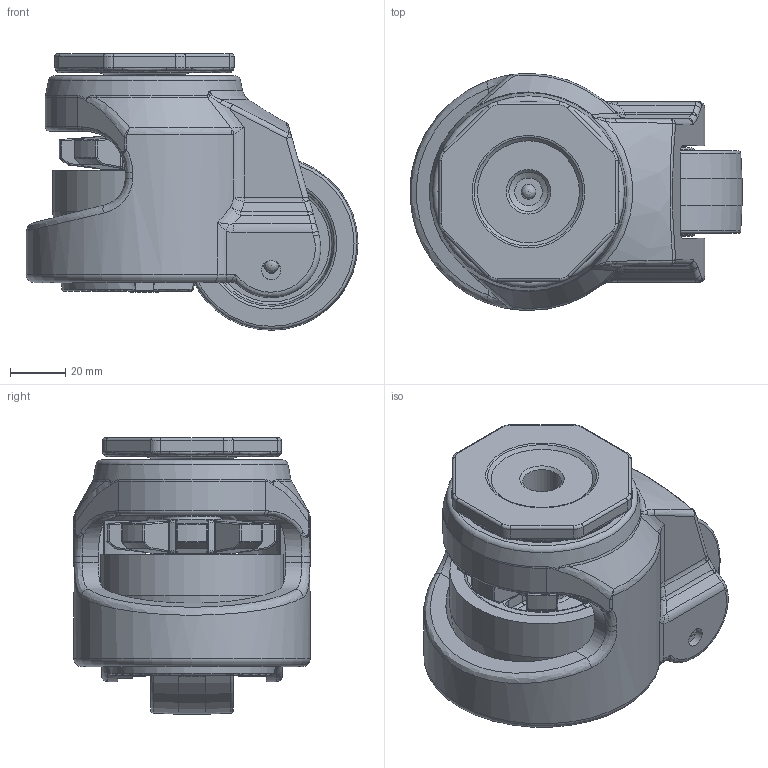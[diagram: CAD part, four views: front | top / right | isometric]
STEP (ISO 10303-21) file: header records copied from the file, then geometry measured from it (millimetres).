
FILE_DESCRIPTION((''),'2;1');
FILE_NAME('C:\Documents and Settings\Administrator\바탕 화면\12월\미스미 복사완품자료\지덕산업_3D\GD-SERIES\GDN-80S\GDN-80S.stp','2010-12-27T17:04:56',('Administrator'),(''),'Autodesk Inventor 2009','Autodesk Inventor 2009','');
FILE_SCHEMA(('AUTOMOTIVE_DESIGN { 1 0 10303 214 1 1 1 1 }'));
Length unit declared in the file: millimetre
Products named in the file (1): GDN-80S
Bounding box: 120.5 x 85.99 x 100.4 mm (x, y, z)
Volume: 405966.8 mm3; surface area: 98411.7 mm2
Topology: 4 solids, 4 shells, 1057 faces, 2580 edges, 1504 vertices
Faces by surface type: cylinder 264, bspline 259, plane 252, torus 113, cone 93, sphere 76
Full cylindrical faces by diameter (mm): 2.6 x1, 3 x3, 7 x2, 8 x1, 8.5 x1, 10 x1, 12 x3, 12.1 x1, 14.21 x1, 15 x1, 20 x2, 20.272 x1, 27 x2, 30.4 x1, 39 x1, 41 x1, 63 x1
Entity records: 46674 total; most frequent: CARTESIAN_POINT 23693, ORIENTED_EDGE 4858, DIRECTION 4733, EDGE_CURVE 2429, AXIS2_PLACEMENT_3D 2022, VERTEX_POINT 1475, EDGE_LOOP 1176, CIRCLE 1140
